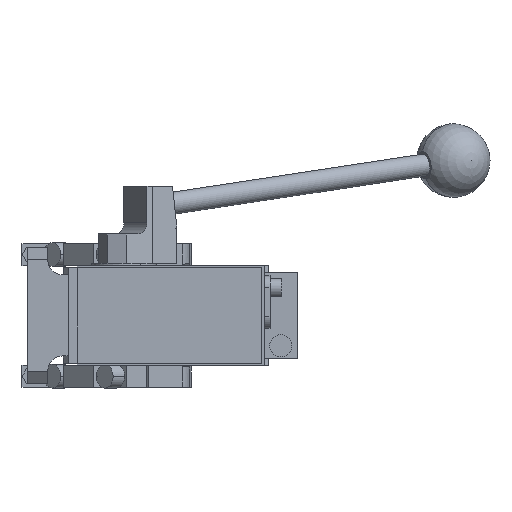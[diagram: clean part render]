
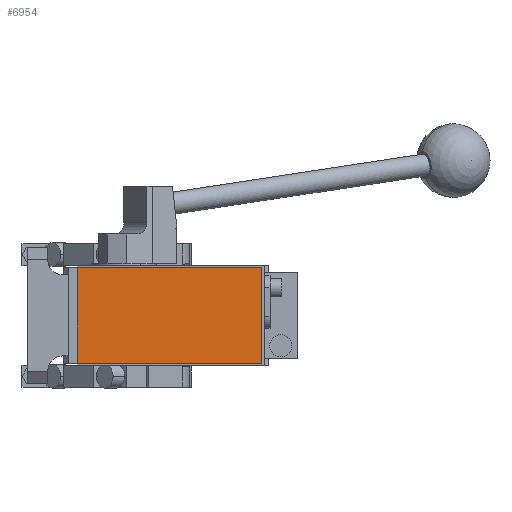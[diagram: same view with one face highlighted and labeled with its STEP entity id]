
A CAD part, front view. The second image highlights one B-rep face of the part: STEP entity #6954.
In plain terms, the highlighted planar face has unit normal (0, -1, 0).
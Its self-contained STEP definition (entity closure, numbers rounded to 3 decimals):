
#43 = VECTOR ( 'NONE', #6061, 1000. ) ;
#276 = CARTESIAN_POINT ( 'NONE',  ( -19., -286.5, 26. ) ) ;
#1300 = CARTESIAN_POINT ( 'NONE',  ( -19., -286.5, 26. ) ) ;
#1407 = DIRECTION ( 'NONE',  ( 0., 0., -1. ) ) ;
#1589 = CARTESIAN_POINT ( 'NONE',  ( 81., -286.5, 26. ) ) ;
#2503 = EDGE_CURVE ( 'NONE', #4084, #15366, #8983, .T. ) ;
#2656 = LINE ( 'NONE', #276, #11366 ) ;
#3030 = EDGE_LOOP ( 'NONE', ( #3382, #10479, #12955, #13647 ) ) ;
#3159 = DIRECTION ( 'NONE',  ( -1., 0., 0. ) ) ;
#3382 = ORIENTED_EDGE ( 'NONE', *, *, #8018, .T. ) ;
#4084 = VERTEX_POINT ( 'NONE', #5345 ) ;
#4756 = CARTESIAN_POINT ( 'NONE',  ( -19., -286.5, -26. ) ) ;
#5064 = VERTEX_POINT ( 'NONE', #1300 ) ;
#5162 = VECTOR ( 'NONE', #15328, 1000. ) ;
#5345 = CARTESIAN_POINT ( 'NONE',  ( 81., -286.5, -26. ) ) ;
#6061 = DIRECTION ( 'NONE',  ( 1., 0., 0. ) ) ;
#6211 = VECTOR ( 'NONE', #3159, 1000. ) ;
#6262 = FACE_OUTER_BOUND ( 'NONE', #3030, .T. ) ;
#6515 = CARTESIAN_POINT ( 'NONE',  ( 0., -286.5, 0. ) ) ;
#6954 = ADVANCED_FACE ( 'NONE', ( #6262 ), #13897, .T. ) ;
#7417 = DIRECTION ( 'NONE',  ( 0., 0., -1. ) ) ;
#7650 = DIRECTION ( 'NONE',  ( 0., -1., 0. ) ) ;
#8018 = EDGE_CURVE ( 'NONE', #5064, #10174, #2656, .T. ) ;
#8983 = LINE ( 'NONE', #1589, #5162 ) ;
#9131 = EDGE_CURVE ( 'NONE', #15366, #5064, #14409, .T. ) ;
#9221 = CARTESIAN_POINT ( 'NONE',  ( -19., -286.5, 26. ) ) ;
#9622 = CARTESIAN_POINT ( 'NONE',  ( -19., -286.5, -26. ) ) ;
#10174 = VERTEX_POINT ( 'NONE', #9622 ) ;
#10479 = ORIENTED_EDGE ( 'NONE', *, *, #13645, .T. ) ;
#11366 = VECTOR ( 'NONE', #7417, 1000. ) ;
#12206 = LINE ( 'NONE', #4756, #43 ) ;
#12955 = ORIENTED_EDGE ( 'NONE', *, *, #2503, .T. ) ;
#13645 = EDGE_CURVE ( 'NONE', #10174, #4084, #12206, .T. ) ;
#13647 = ORIENTED_EDGE ( 'NONE', *, *, #9131, .T. ) ;
#13897 = PLANE ( 'NONE',  #15457 ) ;
#13930 = CARTESIAN_POINT ( 'NONE',  ( 81., -286.5, 26. ) ) ;
#14409 = LINE ( 'NONE', #9221, #6211 ) ;
#15328 = DIRECTION ( 'NONE',  ( 0., 0., 1. ) ) ;
#15366 = VERTEX_POINT ( 'NONE', #13930 ) ;
#15457 = AXIS2_PLACEMENT_3D ( 'NONE', #6515, #7650, #1407 ) ;
